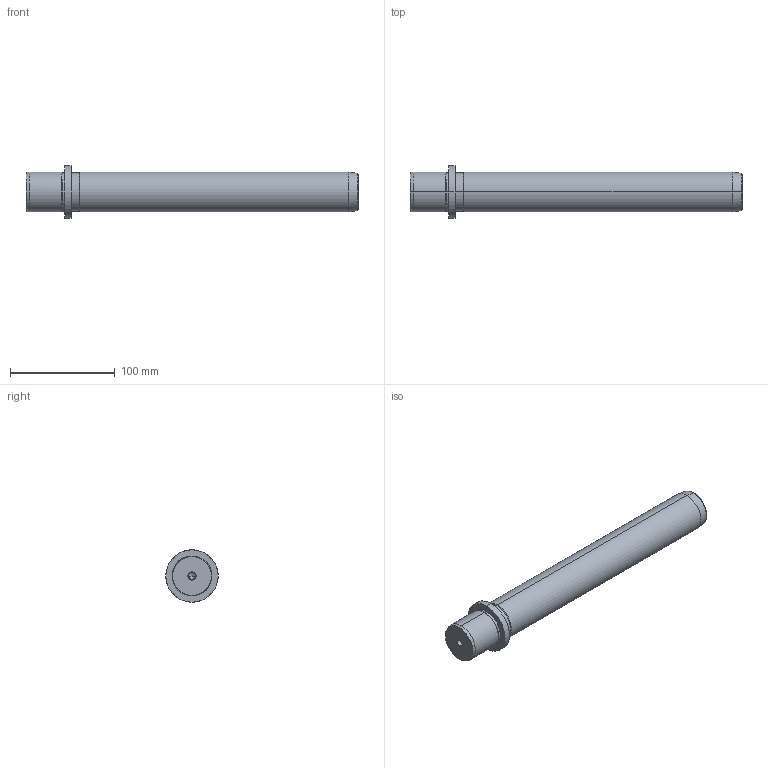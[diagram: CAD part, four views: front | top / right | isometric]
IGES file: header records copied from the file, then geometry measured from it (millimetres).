
Start section: START RECORD GO HERE.
Global section: file name: 718-38x280.igs; native system: DASSAULT SYSTEMES CATIA V5 R20 - www.3ds.com; preprocessor: CATIA Version 5 Release 20 ; author: Utente; organization: NB04-ASUS; date: 20210102.135346; units: millimetre
Bounding box: 317 x 50 x 50 mm (x, y, z)
Surface area: 42851.3 mm2 (no closed solid volume)
Topology: 0 solids, 0 shells, 36 faces, 196 edges, 192 vertices
Faces by surface type: revolution 32, plane 4
